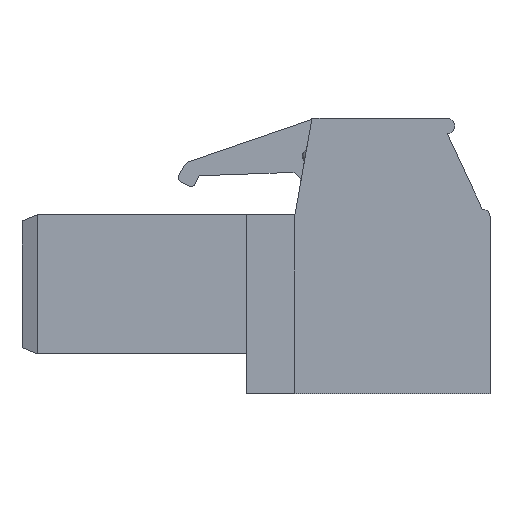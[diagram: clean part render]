
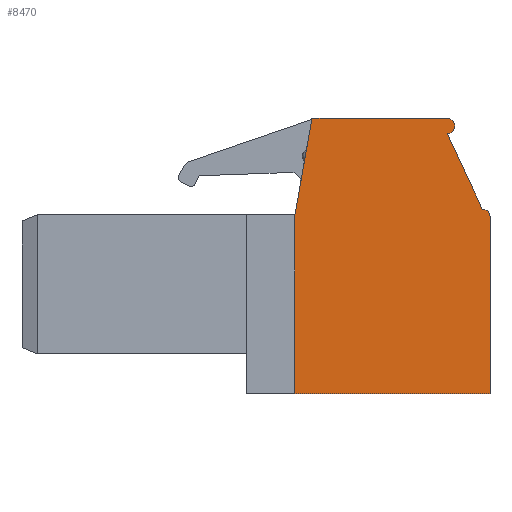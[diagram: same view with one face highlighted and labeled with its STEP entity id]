
A CAD part, left-side view. The second image highlights one B-rep face of the part: STEP entity #8470.
In plain terms, the highlighted planar face has unit normal (-1, 0, 0).
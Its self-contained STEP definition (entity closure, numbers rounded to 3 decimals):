
#208=DIRECTION('',(0.,-1.,0.));
#209=VECTOR('',#208,12.75);
#210=CARTESIAN_POINT('',(21.55,12.75,-23.16));
#211=LINE('',#210,#209);
#569=DIRECTION('',(0.,1.,0.));
#570=VECTOR('',#569,8.839);
#571=CARTESIAN_POINT('',(21.55,2.8,-5.16));
#572=LINE('',#571,#570);
#787=DIRECTION('',(0.,0.,1.));
#788=VECTOR('',#787,11.568);
#789=CARTESIAN_POINT('',(21.55,0.,-23.16));
#790=LINE('',#789,#788);
#803=DIRECTION('',(0.,-0.174,0.985));
#804=VECTOR('',#803,6.397);
#805=CARTESIAN_POINT('',(21.55,12.75,-11.46));
#806=LINE('',#805,#804);
#807=CARTESIAN_POINT('',(21.55,2.8,-5.66));
#808=DIRECTION('',(1.,0.,0.));
#809=DIRECTION('',(0.,0.,1.));
#810=AXIS2_PLACEMENT_3D('',#807,#808,#809);
#812=CARTESIAN_POINT('',(21.55,2.8,-5.66));
#813=DIRECTION('',(1.,0.,0.));
#814=DIRECTION('',(0.,-1.,0.));
#815=AXIS2_PLACEMENT_3D('',#812,#813,#814);
#817=DIRECTION('',(0.,-0.423,-0.906));
#818=VECTOR('',#817,5.442);
#819=CARTESIAN_POINT('',(21.55,2.8,-6.16));
#820=LINE('',#819,#818);
#821=CARTESIAN_POINT('',(21.55,0.5,-11.592));
#822=DIRECTION('',(1.,0.,0.));
#823=DIRECTION('',(0.,0.,1.));
#824=AXIS2_PLACEMENT_3D('',#821,#822,#823);
#826=DIRECTION('',(0.,0.,-1.));
#827=VECTOR('',#826,11.7);
#828=CARTESIAN_POINT('',(21.55,12.75,-11.46));
#829=LINE('',#828,#827);
#6033=CARTESIAN_POINT('',(21.55,2.8,-5.16));
#6035=VERTEX_POINT('',#6033);
#6037=CARTESIAN_POINT('',(21.55,11.639,-5.16));
#6038=VERTEX_POINT('',#6037);
#6079=CARTESIAN_POINT('',(21.55,2.8,-6.16));
#6080=VERTEX_POINT('',#6079);
#6081=CARTESIAN_POINT('',(21.55,2.3,-5.66));
#6082=VERTEX_POINT('',#6081);
#6245=CARTESIAN_POINT('',(21.55,12.75,-11.46));
#6246=VERTEX_POINT('',#6245);
#6277=CARTESIAN_POINT('',(21.55,12.75,-23.16));
#6278=VERTEX_POINT('',#6277);
#6279=CARTESIAN_POINT('',(21.55,0.5,-11.092));
#6280=VERTEX_POINT('',#6279);
#6281=CARTESIAN_POINT('',(21.55,0.,-11.592));
#6282=VERTEX_POINT('',#6281);
#6283=CARTESIAN_POINT('',(21.55,0.,-23.16));
#6284=VERTEX_POINT('',#6283);
#8451=CARTESIAN_POINT('',(21.55,0.,-23.16));
#8452=DIRECTION('',(1.,0.,0.));
#8453=DIRECTION('',(0.,-1.,0.));
#8454=AXIS2_PLACEMENT_3D('',#8451,#8452,#8453);
#8455=PLANE('',#8454);
#8457=ORIENTED_EDGE('',*,*,#8456,.F.);
#8458=ORIENTED_EDGE('',*,*,#8029,.T.);
#8459=ORIENTED_EDGE('',*,*,#8086,.F.);
#8460=ORIENTED_EDGE('',*,*,#8157,.T.);
#8461=ORIENTED_EDGE('',*,*,#8155,.T.);
#8463=ORIENTED_EDGE('',*,*,#8462,.T.);
#8465=ORIENTED_EDGE('',*,*,#8464,.T.);
#8466=ORIENTED_EDGE('',*,*,#8437,.F.);
#8467=ORIENTED_EDGE('',*,*,#7644,.F.);
#8468=EDGE_LOOP('',(#8457,#8458,#8459,#8460,#8461,#8463,#8465,#8466,#8467));
#8469=FACE_OUTER_BOUND('',#8468,.F.);
#8470=ADVANCED_FACE('',(#8469),#8455,.F.);
#811=CIRCLE('',#810,0.5);
#816=CIRCLE('',#815,0.5);
#825=CIRCLE('',#824,0.5);
#7644=EDGE_CURVE('',#6278,#6284,#211,.T.);
#8029=EDGE_CURVE('',#6246,#6038,#806,.T.);
#8086=EDGE_CURVE('',#6035,#6038,#572,.T.);
#8155=EDGE_CURVE('',#6082,#6080,#816,.T.);
#8157=EDGE_CURVE('',#6035,#6082,#811,.T.);
#8437=EDGE_CURVE('',#6284,#6282,#790,.T.);
#8456=EDGE_CURVE('',#6246,#6278,#829,.T.);
#8462=EDGE_CURVE('',#6080,#6280,#820,.T.);
#8464=EDGE_CURVE('',#6280,#6282,#825,.T.);
